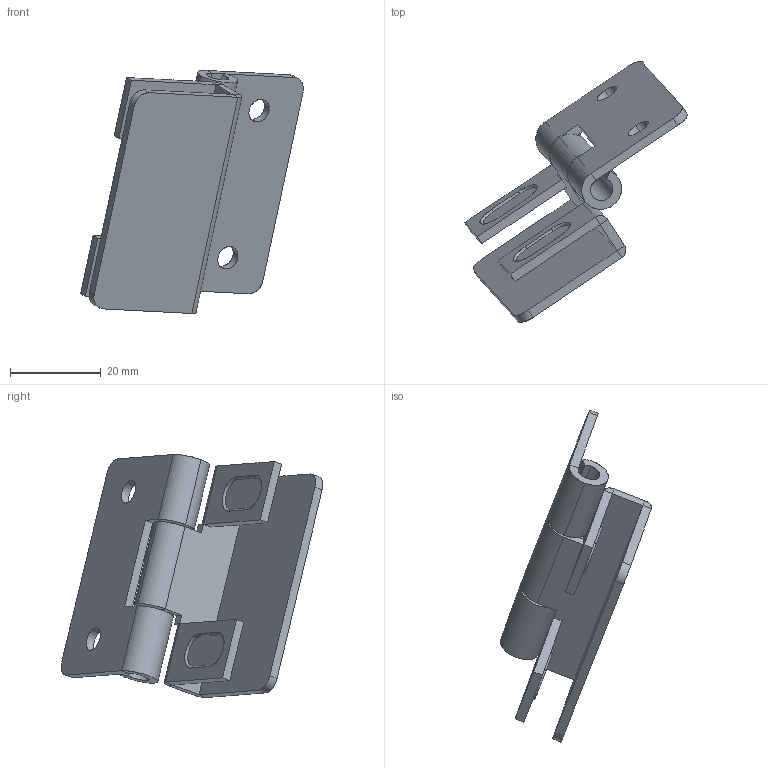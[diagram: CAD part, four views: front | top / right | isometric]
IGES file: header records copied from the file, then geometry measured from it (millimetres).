
Start section: SolidWorks IGES file using analytic representation for surfaces
Global section: file name: C:\Users\cbrechard\Desktop\CX 455.IGS; native system: SolidWorks 2017; preprocessor: SolidWorks 2017; author: cbrechard; date: 190905.083812; units: millimetre
Bounding box: 49.06 x 57.63 x 53.54 mm (x, y, z)
Surface area: 10307.8 mm2 (no closed solid volume)
Topology: 0 solids, 0 shells, 93 faces, 1196 edges, 1196 vertices
Faces by surface type: bspline 58, revolution 35
